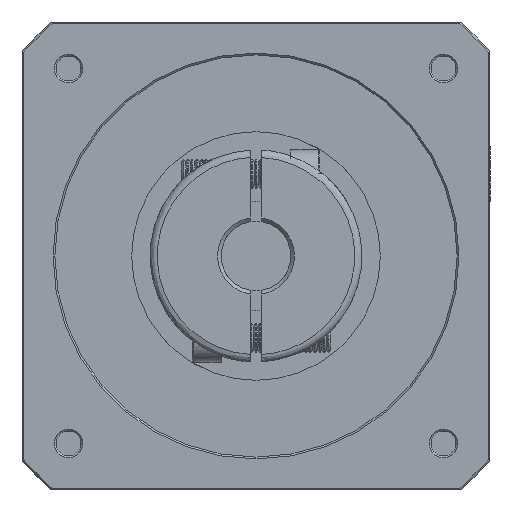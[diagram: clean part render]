
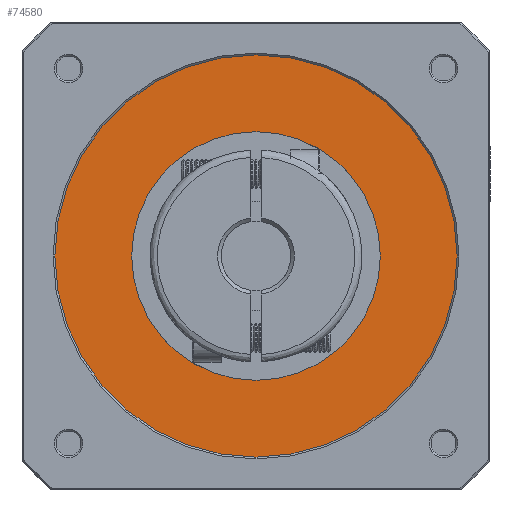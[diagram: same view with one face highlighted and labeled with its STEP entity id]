
A CAD part, front view. The second image highlights one B-rep face of the part: STEP entity #74580.
In plain terms, the highlighted planar face has unit normal (0, 1, 0).
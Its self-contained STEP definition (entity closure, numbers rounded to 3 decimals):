
#2106 = VERTEX_POINT ( 'NONE', #65270 ) ;
#2552 = DIRECTION ( 'NONE',  ( 0., 0., -1. ) ) ;
#5644 = DIRECTION ( 'NONE',  ( 0., -1., 0. ) ) ;
#6961 = DIRECTION ( 'NONE',  ( 0., -1., 0. ) ) ;
#10332 = CARTESIAN_POINT ( 'NONE',  ( 0., -171.611, 55. ) ) ;
#11588 = FACE_OUTER_BOUND ( 'NONE', #62790, .T. ) ;
#13871 = DIRECTION ( 'NONE',  ( 0., -1., 0. ) ) ;
#19853 = VERTEX_POINT ( 'NONE', #10332 ) ;
#27464 = AXIS2_PLACEMENT_3D ( 'NONE', #95788, #49298, #2552 ) ;
#28623 = CARTESIAN_POINT ( 'NONE',  ( 0., -171.611, -55. ) ) ;
#29191 = PLANE ( 'NONE',  #44402 ) ;
#37620 = AXIS2_PLACEMENT_3D ( 'NONE', #53622, #6961, #61494 ) ;
#42354 = CARTESIAN_POINT ( 'NONE',  ( 0., -171.611, 34. ) ) ;
#44402 = AXIS2_PLACEMENT_3D ( 'NONE', #60564, #13871, #68416 ) ;
#46743 = CARTESIAN_POINT ( 'NONE',  ( 0., -171.611, 0. ) ) ;
#48400 = EDGE_LOOP ( 'NONE', ( #90559, #55092 ) ) ;
#49298 = DIRECTION ( 'NONE',  ( 0., 1., 0. ) ) ;
#51687 = EDGE_CURVE ( 'NONE', #19853, #73389, #64934, .T. ) ;
#52314 = CARTESIAN_POINT ( 'NONE',  ( 0., -171.611, 0. ) ) ;
#52632 = EDGE_CURVE ( 'NONE', #73389, #19853, #73420, .T. ) ;
#53181 = AXIS2_PLACEMENT_3D ( 'NONE', #52314, #5644, #60174 ) ;
#53622 = CARTESIAN_POINT ( 'NONE',  ( 0., -171.611, 0. ) ) ;
#54580 = DIRECTION ( 'NONE',  ( 0., 0., -1. ) ) ;
#55092 = ORIENTED_EDGE ( 'NONE', *, *, #66349, .T. ) ;
#55503 = FACE_BOUND ( 'NONE', #48400, .T. ) ;
#60174 = DIRECTION ( 'NONE',  ( 0., 0., 1. ) ) ;
#60564 = CARTESIAN_POINT ( 'NONE',  ( -55.66, -171.611, -55.66 ) ) ;
#61494 = DIRECTION ( 'NONE',  ( 0., 0., 1. ) ) ;
#62790 = EDGE_LOOP ( 'NONE', ( #79654, #66262 ) ) ;
#64934 = CIRCLE ( 'NONE', #27464, 55. ) ;
#65270 = CARTESIAN_POINT ( 'NONE',  ( 0., -171.611, -34. ) ) ;
#66262 = ORIENTED_EDGE ( 'NONE', *, *, #51687, .T. ) ;
#66349 = EDGE_CURVE ( 'NONE', #2106, #96122, #66573, .T. ) ;
#66573 = CIRCLE ( 'NONE', #53181, 34. ) ;
#68416 = DIRECTION ( 'NONE',  ( 1., 0., 0. ) ) ;
#73389 = VERTEX_POINT ( 'NONE', #28623 ) ;
#73420 = CIRCLE ( 'NONE', #91381, 55. ) ;
#74580 = ADVANCED_FACE ( 'NONE', ( #55503, #11588 ), #29191, .F. ) ;
#79654 = ORIENTED_EDGE ( 'NONE', *, *, #52632, .T. ) ;
#83350 = CIRCLE ( 'NONE', #37620, 34. ) ;
#90559 = ORIENTED_EDGE ( 'NONE', *, *, #94004, .T. ) ;
#91381 = AXIS2_PLACEMENT_3D ( 'NONE', #46743, #101107, #54580 ) ;
#94004 = EDGE_CURVE ( 'NONE', #96122, #2106, #83350, .T. ) ;
#95788 = CARTESIAN_POINT ( 'NONE',  ( 0., -171.611, 0. ) ) ;
#96122 = VERTEX_POINT ( 'NONE', #42354 ) ;
#101107 = DIRECTION ( 'NONE',  ( 0., 1., 0. ) ) ;
